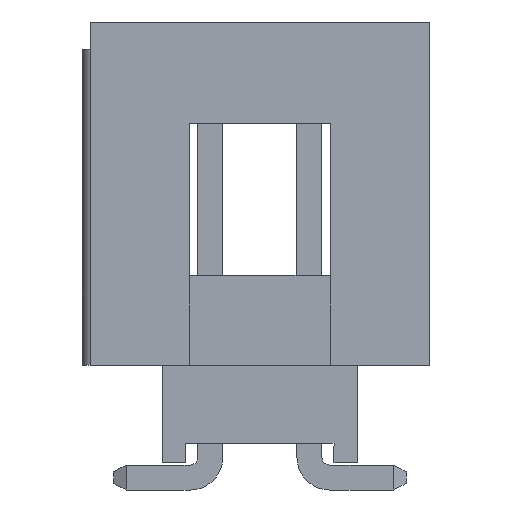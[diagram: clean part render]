
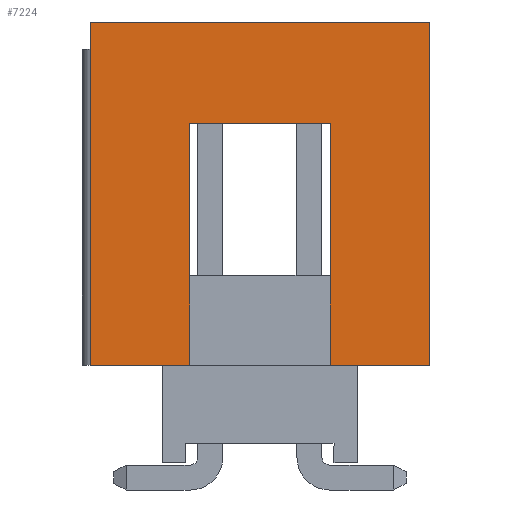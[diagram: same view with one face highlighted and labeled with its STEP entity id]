
A CAD part, left-side view. The second image highlights one B-rep face of the part: STEP entity #7224.
In plain terms, the highlighted planar face has unit normal (-1, 0, 0).
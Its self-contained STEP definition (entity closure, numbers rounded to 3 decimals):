
#1288 = DIRECTION ( 'NONE',  ( 1., 0., 0. ) ) ;
#1499 = ORIENTED_EDGE ( 'NONE', *, *, #28243, .T. ) ;
#1780 = CARTESIAN_POINT ( 'NONE',  ( -5.765, 3.191, 0.05 ) ) ;
#2769 = CARTESIAN_POINT ( 'NONE',  ( -5.765, 6.791, 0.05 ) ) ;
#4083 = CARTESIAN_POINT ( 'NONE',  ( -5.765, 9.341, 2.85 ) ) ;
#4111 = VECTOR ( 'NONE', #23164, 1000. ) ;
#4156 = EDGE_CURVE ( 'NONE', #4326, #33960, #23615, .T. ) ;
#4326 = VERTEX_POINT ( 'NONE', #1780 ) ;
#6244 = DIRECTION ( 'NONE',  ( 0., 1., 0. ) ) ;
#6491 = ORIENTED_EDGE ( 'NONE', *, *, #19725, .T. ) ;
#7224 = ADVANCED_FACE ( 'NONE', ( #31656 ), #33881, .F. ) ;
#8366 = DIRECTION ( 'NONE',  ( 0., 0., -1. ) ) ;
#9575 = ORIENTED_EDGE ( 'NONE', *, *, #34778, .T. ) ;
#10160 = VERTEX_POINT ( 'NONE', #20657 ) ;
#11158 = LINE ( 'NONE', #40109, #25961 ) ;
#11318 = ORIENTED_EDGE ( 'NONE', *, *, #37941, .F. ) ;
#14414 = ORIENTED_EDGE ( 'NONE', *, *, #25730, .F. ) ;
#14732 = CARTESIAN_POINT ( 'NONE',  ( -5.765, 9.341, 2.65 ) ) ;
#15077 = DIRECTION ( 'NONE',  ( 0., -1., 0. ) ) ;
#16173 = AXIS2_PLACEMENT_3D ( 'NONE', #4083, #1288, #41052 ) ;
#16452 = CARTESIAN_POINT ( 'NONE',  ( -5.765, 9.341, 2.65 ) ) ;
#17031 = VERTEX_POINT ( 'NONE', #30215 ) ;
#17575 = CARTESIAN_POINT ( 'NONE',  ( -5.765, 0.641, 2.85 ) ) ;
#17980 = VECTOR ( 'NONE', #20814, 1000. ) ;
#18734 = LINE ( 'NONE', #39592, #24036 ) ;
#18897 = VECTOR ( 'NONE', #15077, 1000. ) ;
#19394 = LINE ( 'NONE', #23305, #35326 ) ;
#19725 = EDGE_CURVE ( 'NONE', #31804, #21711, #19394, .T. ) ;
#19993 = EDGE_LOOP ( 'NONE', ( #20864, #27363, #9575, #14414, #11318, #6491, #1499, #44271 ) ) ;
#20657 = CARTESIAN_POINT ( 'NONE',  ( -5.765, 6.791, -6.15 ) ) ;
#20814 = DIRECTION ( 'NONE',  ( 0., 0., -1. ) ) ;
#20864 = ORIENTED_EDGE ( 'NONE', *, *, #4156, .F. ) ;
#21314 = VERTEX_POINT ( 'NONE', #26298 ) ;
#21711 = VERTEX_POINT ( 'NONE', #26466 ) ;
#22126 = CARTESIAN_POINT ( 'NONE',  ( -5.765, 9.341, -6.15 ) ) ;
#22168 = CARTESIAN_POINT ( 'NONE',  ( -5.765, 0.641, -6.15 ) ) ;
#22434 = DIRECTION ( 'NONE',  ( 0., 0., -1. ) ) ;
#23164 = DIRECTION ( 'NONE',  ( 0., -1., 0. ) ) ;
#23305 = CARTESIAN_POINT ( 'NONE',  ( -5.765, 9.341, 2.85 ) ) ;
#23615 = LINE ( 'NONE', #2769, #34117 ) ;
#24036 = VECTOR ( 'NONE', #22434, 1000. ) ;
#25369 = LINE ( 'NONE', #22126, #34142 ) ;
#25730 = EDGE_CURVE ( 'NONE', #21314, #40678, #42366, .T. ) ;
#25961 = VECTOR ( 'NONE', #8366, 1000. ) ;
#26298 = CARTESIAN_POINT ( 'NONE',  ( -5.765, 0.641, 2.65 ) ) ;
#26466 = CARTESIAN_POINT ( 'NONE',  ( -5.765, 9.341, -6.15 ) ) ;
#27363 = ORIENTED_EDGE ( 'NONE', *, *, #29671, .T. ) ;
#28243 = EDGE_CURVE ( 'NONE', #21711, #10160, #36615, .T. ) ;
#29671 = EDGE_CURVE ( 'NONE', #4326, #17031, #18734, .T. ) ;
#30215 = CARTESIAN_POINT ( 'NONE',  ( -5.765, 3.191, -6.15 ) ) ;
#31656 = FACE_OUTER_BOUND ( 'NONE', #19993, .T. ) ;
#31804 = VERTEX_POINT ( 'NONE', #14732 ) ;
#32696 = CARTESIAN_POINT ( 'NONE',  ( -5.765, 9.341, -6.15 ) ) ;
#33881 = PLANE ( 'NONE',  #16173 ) ;
#33960 = VERTEX_POINT ( 'NONE', #34060 ) ;
#34060 = CARTESIAN_POINT ( 'NONE',  ( -5.765, 6.791, 0.05 ) ) ;
#34117 = VECTOR ( 'NONE', #6244, 1000. ) ;
#34142 = VECTOR ( 'NONE', #36272, 1000. ) ;
#34778 = EDGE_CURVE ( 'NONE', #17031, #40678, #25369, .T. ) ;
#35326 = VECTOR ( 'NONE', #37005, 1000. ) ;
#36272 = DIRECTION ( 'NONE',  ( 0., -1., 0. ) ) ;
#36615 = LINE ( 'NONE', #32696, #18897 ) ;
#37005 = DIRECTION ( 'NONE',  ( 0., 0., -1. ) ) ;
#37760 = LINE ( 'NONE', #16452, #4111 ) ;
#37941 = EDGE_CURVE ( 'NONE', #31804, #21314, #37760, .T. ) ;
#39592 = CARTESIAN_POINT ( 'NONE',  ( -5.765, 3.191, 0.05 ) ) ;
#40109 = CARTESIAN_POINT ( 'NONE',  ( -5.765, 6.791, 0.05 ) ) ;
#40678 = VERTEX_POINT ( 'NONE', #22168 ) ;
#41052 = DIRECTION ( 'NONE',  ( 0., 1., 0. ) ) ;
#42366 = LINE ( 'NONE', #17575, #17980 ) ;
#44163 = EDGE_CURVE ( 'NONE', #33960, #10160, #11158, .T. ) ;
#44271 = ORIENTED_EDGE ( 'NONE', *, *, #44163, .F. ) ;
